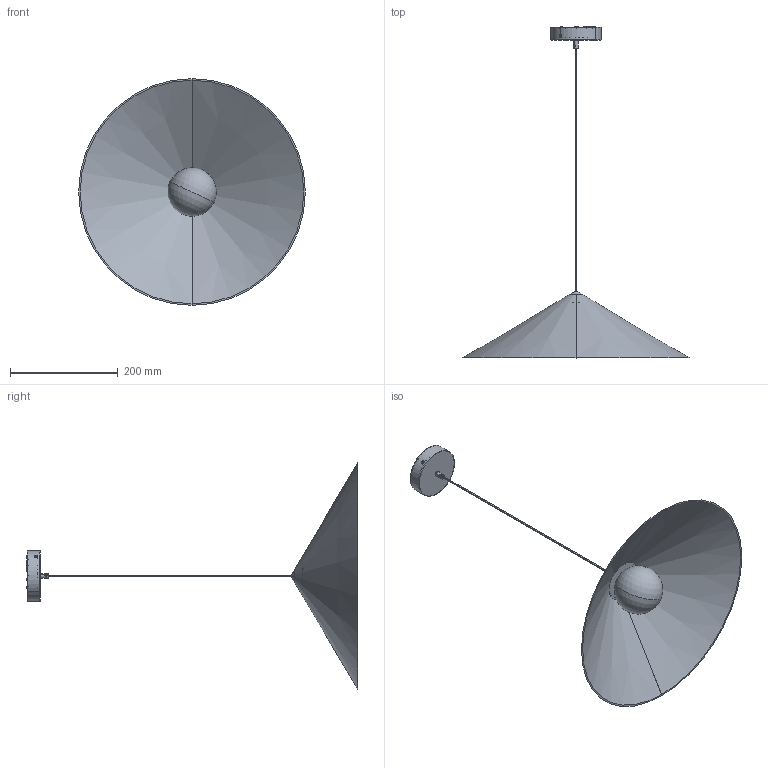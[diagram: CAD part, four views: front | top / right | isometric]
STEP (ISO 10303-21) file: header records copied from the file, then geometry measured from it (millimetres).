
FILE_DESCRIPTION (( 'STEP AP214' ), '1' );
FILE_NAME ('BELL_420_Sup_STEP.STEP', '2024-05-29T14:43:38', ( '' ), ( '' ), 'SwSTEP 2.0', 'SolidWorks 2024', '' );
FILE_SCHEMA (( 'AUTOMOTIVE_DESIGN' ));
Length unit declared in the file: millimetre
Products named in the file (1): BELL_420_Sup_STEP
Bounding box: 421 x 616.2 x 421 mm (x, y, z)
Volume: 339160.1 mm3; surface area: 435085.4 mm2
Topology: 12 solids, 12 shells, 424 faces, 1016 edges, 645 vertices
Faces by surface type: cylinder 145, plane 126, bspline 63, torus 46, cone 40, sphere 4
Entity records: 19979 total; most frequent: CARTESIAN_POINT 10457, ORIENTED_EDGE 2012, DIRECTION 1846, EDGE_CURVE 1006, AXIS2_PLACEMENT_3D 723, VERTEX_POINT 639, EDGE_LOOP 499, FACE_OUTER_BOUND 424
